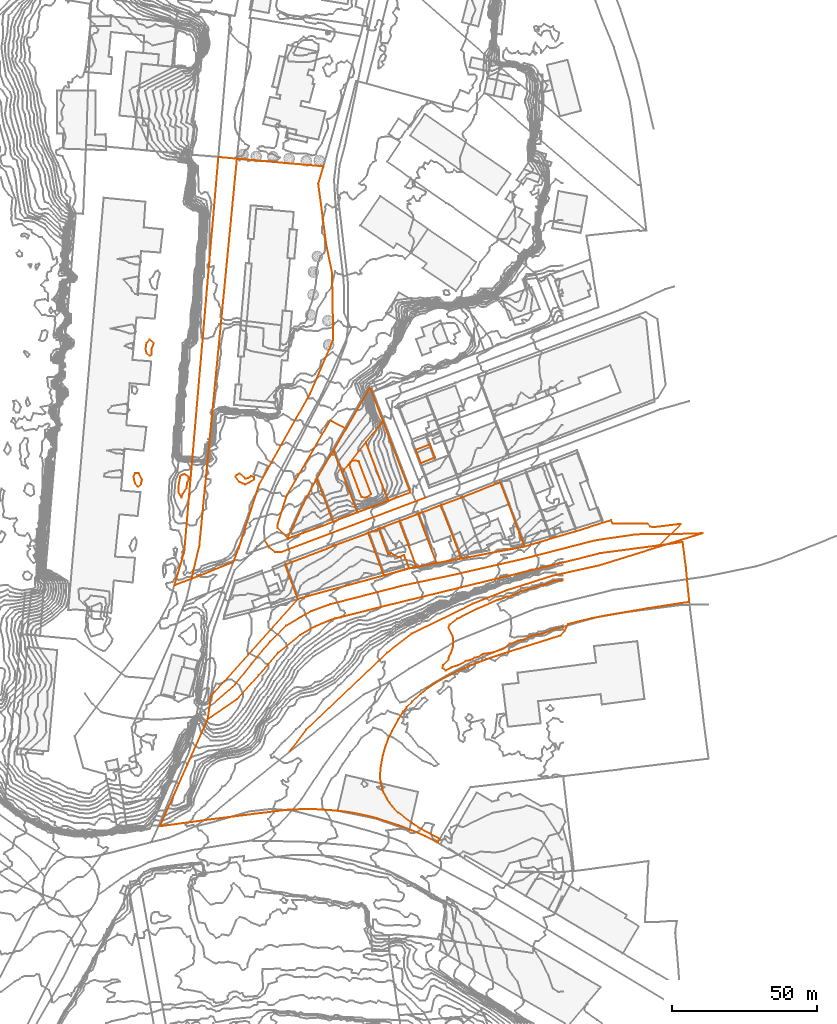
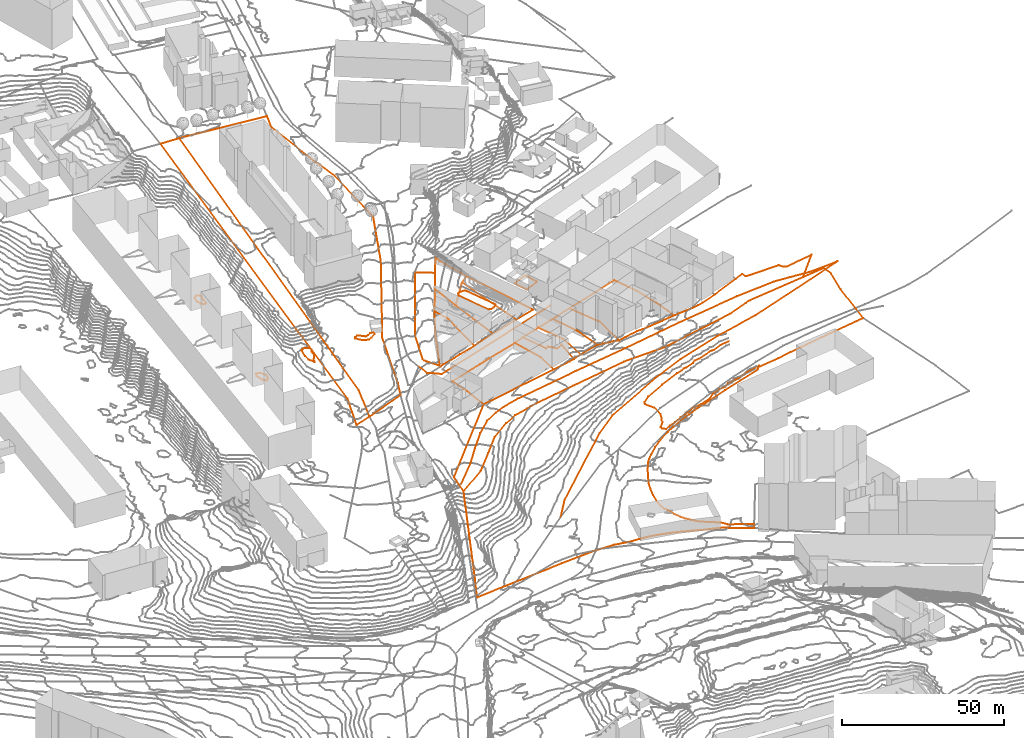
# Not in any storey, part 278 of 419: 26 proxies.
"""IFC2X3 model written with IfcOpenShell, lengths in metres."""

from ifc_helpers import new_model, entity, si_unit, frame, origin_with_axes, place, context, subcontext, project, element, save


model = new_model("IFC2X3")

# Units and contexts
model_context = context("Model", 3, precision=1e-05, world=origin_with_axes())
body_context = subcontext(model_context, "Body", "Model", "MODEL_VIEW")
ifc_project = project(units=[si_unit("AREAUNIT", "SQUARE_METRE"), si_unit("LENGTHUNIT", "METRE")], contexts=[model_context])

# Proxies
proxy_1_placement = place(None, frame((856.5920204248, 606.0976909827, 82.8), z_axis=(0.0, 0.0, 1.0), x_axis=(1.0, 0.0, 0.0)))
element("IfcBuildingElementProxy", 1, at=proxy_1_placement, Name="Route 35", ObjectType="NOTDEFINED", context=body_context, shape_type="GeometricCurveSet", body=[
    entity("IfcGeometricCurveSet", [entity("IfcPolyline", [entity("IfcCartesianPoint", [0.0, 0.0, 0.0]), entity("IfcCartesianPoint", [6.9, 6.0999999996, 1.7]), entity("IfcCartesianPoint", [12.7, 13.3999999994, 0.9]), entity("IfcCartesianPoint", [19.0, 21.0, -0.2]), entity("IfcCartesianPoint", [24.6, 26.3999999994, -0.8]), entity("IfcCartesianPoint", [29.5, 29.3999999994, -1.2]), entity("IfcCartesianPoint", [33.3, 31.5, -1.7]), entity("IfcCartesianPoint", [39.7, 33.7999999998, -2.3]), entity("IfcCartesianPoint", [64.1, 40.0999999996, -4.2]), entity("IfcCartesianPoint", [83.4, 44.2000000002, -5.2]), entity("IfcCartesianPoint", [106.1, 49.3999999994, -6.3]), entity("IfcCartesianPoint", [130.8, 55.7999999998, -8.8]), entity("IfcCartesianPoint", [145.2, 57.8999999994, -9.6]), entity("IfcCartesianPoint", [150.9, 58.0, -10.0]), entity("IfcCartesianPoint", [158.3, 58.0, -10.5]), entity("IfcCartesianPoint", [168.1, 58.2999999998, -10.2])])]),
])
proxy_2_placement = place(None, frame((882.2920204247, 589.0976909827, 71.5), z_axis=(0.0, 0.0, 1.0), x_axis=(1.0, 0.0, 0.0)))
element("IfcBuildingElementProxy", 2, at=proxy_2_placement, Name="Route 169", ObjectType="NOTDEFINED", context=body_context, shape_type="GeometricCurveSet", body=[
    entity("IfcGeometricCurveSet", [entity("IfcPolyline", [entity("IfcCartesianPoint", [0.0, 0.0, 0.0]), entity("IfcCartesianPoint", [5.8, 7.5999999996, -0.2]), entity("IfcCartesianPoint", [33.6000000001, 34.0999999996, -0.6]), entity("IfcCartesianPoint", [42.1000000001, 40.7000000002, -0.9]), entity("IfcCartesianPoint", [63.2000000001, 51.0, -0.6]), entity("IfcCartesianPoint", [75.0, 55.7000000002, -0.3]), entity("IfcCartesianPoint", [90.9, 60.7000000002, -0.3]), entity("IfcCartesianPoint", [106.7000000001, 64.2000000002, 0.0]), entity("IfcCartesianPoint", [142.4, 75.2999999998, 1.1])])]),
])
proxy_3_placement = place(None, frame((873.7920204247, 662.0976909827, 87.0), z_axis=(0.0, 0.0, 1.0), x_axis=(1.0, 0.0, 0.0)))
element("IfcBuildingElementProxy", 3, at=proxy_3_placement, Name="Route 282", ObjectType="NOTDEFINED", context=body_context, shape_type="GeometricCurveSet", body=[
    entity("IfcGeometricCurveSet", [entity("IfcPolyline", [entity("IfcCartesianPoint", [0.0, 0.0, 0.0]), entity("IfcCartesianPoint", [1.5, -2.7000000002, -1.2]), entity("IfcCartesianPoint", [3.5, -4.2000000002, -1.2]), entity("IfcCartesianPoint", [5.7000000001, -4.2000000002, -2.2]), entity("IfcCartesianPoint", [55.4, 14.5999999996, -5.2])])]),
])
proxy_4_placement = place(None, frame((926.6920204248, 671.0176909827, 81.0896820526), z_axis=(0.0, 0.0, 1.0), x_axis=(1.0, 0.0, 0.0)))
element("IfcBuildingElementProxy", 4, at=proxy_4_placement, Name="Cadastre 19", ObjectType="NOTDEFINED", context=body_context, shape_type="GeometricCurveSet", body=[
    entity("IfcGeometricCurveSet", [entity("IfcPolyline", [entity("IfcCartesianPoint", [6.36, -16.9000000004, -1.6779617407]), entity("IfcCartesianPoint", [3.4800000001, -9.3899999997, -0.0629467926]), entity("IfcCartesianPoint", [0.0, 0.0, 0.0]), entity("IfcCartesianPoint", [1.14, 0.46, -0.0689126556]), entity("IfcCartesianPoint", [7.7100000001, 2.9900000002, -0.5121176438]), entity("IfcCartesianPoint", [12.12, -8.1799999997, -0.3472819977]), entity("IfcCartesianPoint", [14.8400000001, -15.3499999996, -4.0007312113]), entity("IfcCartesianPoint", [12.92, -15.6799999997, -3.338548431]), entity("IfcCartesianPoint", [6.36, -16.9000000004, -1.6779617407])])]),
])
proxy_5_placement = place(None, frame((854.1320204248, 600.2776909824, 84.4168177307), z_axis=(0.0, 0.0, 1.0), x_axis=(1.0, 0.0, 0.0)))
element("IfcBuildingElementProxy", 5, at=proxy_5_placement, Name="Cadastre 20", ObjectType="NOTDEFINED", context=body_context, shape_type="GeometricCurveSet", body=[
    entity("IfcGeometricCurveSet", [entity("IfcPolyline", [entity("IfcCartesianPoint", [31.08, 41.5, -3.255061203]), entity("IfcCartesianPoint", [60.74, 49.5800000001, -5.4217720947]), entity("IfcCartesianPoint", [67.63, 51.4800000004, -5.893709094]), entity("IfcCartesianPoint", [69.46, 51.9700000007, -5.9433149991]), entity("IfcCartesianPoint", [70.12, 52.1500000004, -5.7722557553]), entity("IfcCartesianPoint", [71.98, 52.4700000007, -5.4066388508]), entity("IfcCartesianPoint", [78.9199999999, 53.8399999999, -5.0050974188]), entity("IfcCartesianPoint", [85.48, 55.0600000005, -6.665684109]), entity("IfcCartesianPoint", [87.4, 55.3900000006, -7.3278668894]), entity("IfcCartesianPoint", [90.0499999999, 55.8799999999, -7.2246532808]), entity("IfcCartesianPoint", [94.63, 56.71, -7.1273184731]), entity("IfcCartesianPoint", [97.12, 57.2599999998, -7.5501941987]), entity("IfcCartesianPoint", [104.59, 58.5800000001, -7.8696262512]), entity("IfcCartesianPoint", [109.24, 59.5200000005, -8.1018192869]), entity("IfcCartesianPoint", [118.24, 62.25, -9.739118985]), entity("IfcCartesianPoint", [119.88, 62.7300000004, -9.8235665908]), entity("IfcCartesianPoint", [121.9199999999, 63.3300000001, -10.0096198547]), entity("IfcCartesianPoint", [126.9299999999, 64.79, -9.542414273]), entity("IfcCartesianPoint", [136.11, 67.71, -8.606219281]), entity("IfcCartesianPoint", [138.98, 68.5899999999, -8.3070189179]), entity("IfcCartesianPoint", [139.6, 67.4500000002, -8.6946183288]), entity("IfcCartesianPoint", [141.78, 67.4100000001, -8.7082181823]), entity("IfcCartesianPoint", [151.39, 67.4900000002, -8.6810184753]), entity("IfcCartesianPoint", [152.5, 66.46, -9.0180169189]), entity("IfcCartesianPoint", [153.27, 66.1600000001, -9.1140168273]), entity("IfcCartesianPoint", [163.0499999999, 67.3500000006, -8.7286179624]), entity("IfcCartesianPoint", [155.76, 59.96, -10.0884162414]), entity("IfcCartesianPoint", [135.2, 57.25, -10.0394200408]), entity("IfcCartesianPoint", [133.3099999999, 56.7200000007, -10.0448191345]), entity("IfcCartesianPoint", [127.25, 55.21, -10.9395182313]), entity("IfcCartesianPoint", [99.6899999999, 48.4800000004, -9.9919554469]), entity("IfcCartesianPoint", [82.8099999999, 44.3600000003, -7.0012194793]), entity("IfcCartesianPoint", [61.85, 39.2400000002, -5.567098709]), entity("IfcCartesianPoint", [46.2999999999, 35.3500000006, -4.514464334]), entity("IfcCartesianPoint", [42.35, 34.2400000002, -4.4504679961]), entity("IfcCartesianPoint", [36.95, 32.0300000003, -3.7144646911]), entity("IfcCartesianPoint", [31.91, 29.1000000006, -3.1966184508]), entity("IfcCartesianPoint", [24.28, 22.9199999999, -2.0338149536]), entity("IfcCartesianPoint", [17.62, 15.2700000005, -1.0654986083]), entity("IfcCartesianPoint", [10.12, 6.9900000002, -0.1461534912]), entity("IfcCartesianPoint", [0.0, 0.0, 0.0]), entity("IfcCartesianPoint", [1.22, 8.0700000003, -0.0839378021]), entity("IfcCartesianPoint", [1.23, 8.0899999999, -0.0690118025]), entity("IfcCartesianPoint", [31.0599999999, 41.4700000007, -3.2622171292]), entity("IfcCartesianPoint", [31.08, 41.5, -3.255061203])])]),
])
proxy_6_placement = place(None, frame((934.4020204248, 674.0076909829, 80.5775644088), z_axis=(0.0, 0.0, 1.0), x_axis=(1.0, 0.0, 0.0)))
element("IfcBuildingElementProxy", 6, at=proxy_6_placement, Name="Cadastre 21", ObjectType="NOTDEFINED", context=body_context, shape_type="GeometricCurveSet", body=[
    entity("IfcGeometricCurveSet", [entity("IfcPolyline", [entity("IfcCartesianPoint", [7.13, -18.3399999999, -3.4886135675]), entity("IfcCartesianPoint", [4.4099999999, -11.1699999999, 0.1648356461]), entity("IfcCartesianPoint", [0.0, 0.0, 0.0]), entity("IfcCartesianPoint", [6.98, 2.6200000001, -0.4642618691]), entity("IfcCartesianPoint", [20.5699999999, 7.9299999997, -1.3784505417]), entity("IfcCartesianPoint", [23.7799999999, -0.5, -1.4028633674]), entity("IfcCartesianPoint", [26.6, -7.9500000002, -2.5429962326]), entity("IfcCartesianPoint", [28.22, -12.2800000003, -3.3749533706]), entity("IfcCartesianPoint", [28.97, -14.21, -4.2625659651]), entity("IfcCartesianPoint", [24.3199999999, -15.1500000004, -4.0303729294]), entity("IfcCartesianPoint", [16.85, -16.4700000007, -3.7109408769]), entity("IfcCartesianPoint", [14.36, -17.0200000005, -3.2880651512]), entity("IfcCartesianPoint", [9.7799999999, -17.8500000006, -3.3853999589]), entity("IfcCartesianPoint", [7.13, -18.3399999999, -3.4886135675])])]),
])
proxy_7_placement = place(None, frame((891.7320204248, 683.3076909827, 88.7156272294), z_axis=(0.0, 0.0, 1.0), x_axis=(1.0, 0.0, 0.0)))
element("IfcBuildingElementProxy", 7, at=proxy_7_placement, Name="Cadastre 32", ObjectType="NOTDEFINED", context=body_context, shape_type="GeometricCurveSet", body=[
    entity("IfcGeometricCurveSet", [entity("IfcPolyline", [entity("IfcCartesianPoint", [5.78, 9.6299999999, 0.5222743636]), entity("IfcCartesianPoint", [8.71, 2.0999999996, -2.0883052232]), entity("IfcCartesianPoint", [14.08, -11.7199999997, -6.2236720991]), entity("IfcCartesianPoint", [8.77, -13.71, -6.0148249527]), entity("IfcCartesianPoint", [7.64, -14.0899999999, -5.9381997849]), entity("IfcCartesianPoint", [5.66, -15.0099999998, -5.7464299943]), entity("IfcCartesianPoint", [1.9400000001, -5.1299999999, -0.4494564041]), entity("IfcCartesianPoint", [0.0, 0.0, 0.0]), entity("IfcCartesianPoint", [4.53, 7.6299999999, -0.0169090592]), entity("IfcCartesianPoint", [5.78, 9.6299999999, 0.5222743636])])]),
])
proxy_8_placement = place(None, frame((897.5120204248, 692.9376909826, 89.237901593), z_axis=(0.0, 0.0, 1.0), x_axis=(1.0, 0.0, 0.0)))
element("IfcBuildingElementProxy", 8, at=proxy_8_placement, Name="Cadastre 33", ObjectType="NOTDEFINED", context=body_context, shape_type="GeometricCurveSet", body=[
    entity("IfcGeometricCurveSet", [entity("IfcPolyline", [entity("IfcCartesianPoint", [13.23, 20.0499999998, -6.1742382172]), entity("IfcCartesianPoint", [17.0399999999, 10.1299999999, -7.2015495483]), entity("IfcCartesianPoint", [11.14, 2.8399999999, -3.0760072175]), entity("IfcCartesianPoint", [2.9299999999, -7.5300000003, -2.6105795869]), entity("IfcCartesianPoint", [0.0, 0.0, 0.0]), entity("IfcCartesianPoint", [4.2999999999, 7.4199999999, 0.176577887]), entity("IfcCartesianPoint", [12.3199999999, 21.2599999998, -5.1970233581]), entity("IfcCartesianPoint", [12.72, 21.1699999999, -5.5918273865]), entity("IfcCartesianPoint", [12.8099999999, 20.8899999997, -5.6891719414]), entity("IfcCartesianPoint", [13.23, 20.0499999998, -6.1742382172])])]),
])
proxy_9_placement = place(None, frame((900.4420204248, 685.4076909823, 86.6273220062), z_axis=(0.0, 0.0, 1.0), x_axis=(1.0, 0.0, 0.0)))
element("IfcBuildingElementProxy", 9, at=proxy_9_placement, Name="Cadastre 34", ObjectType="NOTDEFINED", context=body_context, shape_type="GeometricCurveSet", body=[
    entity("IfcGeometricCurveSet", [entity("IfcPolyline", [entity("IfcCartesianPoint", [0.0, 0.0, 0.0]), entity("IfcCartesianPoint", [8.2100000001, 10.3700000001, -0.4654276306]), entity("IfcCartesianPoint", [15.9700000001, -9.8199999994, -4.9383921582]), entity("IfcCartesianPoint", [5.37, -13.8199999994, -4.1353668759]), entity("IfcCartesianPoint", [0.0, 0.0, 0.0])])]),
])
proxy_10_placement = place(None, frame((837.6220204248, 563.3876909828, 72.5163026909), z_axis=(0.0, 0.0, 1.0), x_axis=(1.0, 0.0, 0.0)))
element("IfcBuildingElementProxy", 10, at=proxy_10_placement, Name="Cadastre 35", ObjectType="NOTDEFINED", context=body_context, shape_type="GeometricCurveSet", body=[
    entity("IfcGeometricCurveSet", [entity("IfcPolyline", [entity("IfcCartesianPoint", [172.27, 96.8499999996, 1.8120987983]), entity("IfcCartesianPoint", [180.21, 97.9799999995, 1.736097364]), entity("IfcCartesianPoint", [180.6899999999, 94.2000000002, 1.8598952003]), entity("IfcCartesianPoint", [181.3, 89.3099999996, -1.257305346]), entity("IfcCartesianPoint", [182.48, 77.29, -5.3991005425]), entity("IfcCartesianPoint", [179.45, 76.9199999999, -5.3981003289]), entity("IfcCartesianPoint", [168.33, 75.1600000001, -5.407802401]), entity("IfcCartesianPoint", [153.95, 72.71, -5.4443048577]), entity("IfcCartesianPoint", [148.98, 71.7400000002, -5.41360364]), entity("IfcCartesianPoint", [140.65, 69.71, -4.6963022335]), entity("IfcCartesianPoint", [139.5, 67.3499999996, -2.2395045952]), entity("IfcCartesianPoint", [138.1, 65.7800000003, -2.369304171]), entity("IfcCartesianPoint", [124.01, 61.3300000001, -2.3799039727]), entity("IfcCartesianPoint", [115.92, 58.7400000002, -2.6464989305]), entity("IfcCartesianPoint", [111.85, 57.2999999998, -2.4993019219]), entity("IfcCartesianPoint", [107.8199999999, 55.7199999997, -2.5268760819]), entity("IfcCartesianPoint", [103.87, 54.0300000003, -2.5241243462]), entity("IfcCartesianPoint", [100.13, 52.2599999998, -2.5502042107]), entity("IfcCartesianPoint", [97.03, 50.6499999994, -2.5543116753]), entity("IfcCartesianPoint", [94.79, 49.3099999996, -2.6350018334]), entity("IfcCartesianPoint", [92.34, 47.6200000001, -2.6360716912]), entity("IfcCartesianPoint", [90.04, 45.7999999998, -2.6253007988]), entity("IfcCartesianPoint", [87.0, 43.04, -2.6163191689]), entity("IfcCartesianPoint", [85.09, 41.0499999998, -2.5455012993]), entity("IfcCartesianPoint", [83.86, 39.46, -2.5053115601]), entity("IfcCartesianPoint", [82.17, 36.7800000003, -2.4870825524]), entity("IfcCartesianPoint", [80.0, 32.8600000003, -2.2737427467]), entity("IfcCartesianPoint", [78.76, 30.21, -2.7854409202]), entity("IfcCartesianPoint", [77.63, 27.2000000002, -2.8966392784]), entity("IfcCartesianPoint", [76.8, 24.0800000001, -2.9080024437]), entity("IfcCartesianPoint", [76.12, 20.2699999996, -2.9062323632]), entity("IfcCartesianPoint", [75.91, 17.4799999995, -2.916904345]), entity("IfcCartesianPoint", [76.05, 15.6799999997, -2.7580110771]), entity("IfcCartesianPoint", [76.1899999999, 15.04, -2.5823995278]), entity("IfcCartesianPoint", [76.65, 13.0700000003, -2.5536930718]), entity("IfcCartesianPoint", [77.16, 11.7000000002, -2.6786469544]), entity("IfcCartesianPoint", [78.26, 9.5499999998, -2.874301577]), entity("IfcCartesianPoint", [79.17, 8.1100000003, -2.8973024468]), entity("IfcCartesianPoint", [80.21, 6.7599999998, -2.9377031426]), entity("IfcCartesianPoint", [82.08, 4.79, -3.0538612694]), entity("IfcCartesianPoint", [86.95, 1.04, -2.8390723]), entity("IfcCartesianPoint", [87.45, 0.7199999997, -2.8160871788]), entity("IfcCartesianPoint", [89.27, -0.4699999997, -3.4408634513]), entity("IfcCartesianPoint", [96.45, -4.3200000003, -3.5215471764]), entity("IfcCartesianPoint", [95.66, -5.6399999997, -3.9422657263]), entity("IfcCartesianPoint", [91.39, -3.3799999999, -3.8965173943]), entity("IfcCartesianPoint", [86.97, -1.4100000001, -3.2647032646]), entity("IfcCartesianPoint", [82.12, 0.3999999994, -3.3904874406]), entity("IfcCartesianPoint", [74.97, 2.7199999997, -3.0724026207]), entity("IfcCartesianPoint", [72.34, 3.4399999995, -2.9191760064]), entity("IfcCartesianPoint", [67.89, 4.3999999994, -2.7174870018]), entity("IfcCartesianPoint", [65.01, 4.9100000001, -2.6375051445]), entity("IfcCartesianPoint", [62.23, 5.2599999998, -2.5419035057]), entity("IfcCartesianPoint", [57.37, 5.6699999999, -2.6427019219]), entity("IfcCartesianPoint", [52.51, 5.9500000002, -2.1299032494]), entity("IfcCartesianPoint", [44.7, 5.7999999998, -1.7854698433]), entity("IfcCartesianPoint", [32.92, 4.3300000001, -1.252064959]), entity("IfcCartesianPoint", [15.35, 2.1100000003, -0.6742408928]), entity("IfcCartesianPoint", [0.0, 0.0, 0.0]), entity("IfcCartesianPoint", [2.41, 5.4399999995, 2.880453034]), entity("IfcCartesianPoint", [16.51, 36.8899999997, 11.9005150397]), entity("IfcCartesianPoint", [26.63, 43.8799999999, 11.7543615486]), entity("IfcCartesianPoint", [34.13, 52.1600000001, 10.8350164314]), entity("IfcCartesianPoint", [40.79, 59.8099999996, 9.8667000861]), entity("IfcCartesianPoint", [48.42, 65.9900000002, 8.703896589]), entity("IfcCartesianPoint", [53.46, 68.9199999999, 8.1860503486]), entity("IfcCartesianPoint", [58.86, 71.1299999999, 7.4500470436]), entity("IfcCartesianPoint", [62.8099999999, 72.2400000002, 7.3860507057]), entity("IfcCartesianPoint", [78.36, 76.1299999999, 6.3334163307]), entity("IfcCartesianPoint", [99.3199999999, 81.25, 4.8992955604]), entity("IfcCartesianPoint", [116.2, 85.3700000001, 1.9085595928]), entity("IfcCartesianPoint", [143.76, 92.0999999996, 0.9609968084]), entity("IfcCartesianPoint", [149.8199999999, 93.6100000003, 1.8556959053]), entity("IfcCartesianPoint", [151.71, 94.1399999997, 1.8610949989]), entity("IfcCartesianPoint", [172.27, 96.8499999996, 1.8120987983])])]),
])
proxy_11_placement = place(None, frame((920.2020204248, 668.6376909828, 81.4765937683), z_axis=(0.0, 0.0, 1.0), x_axis=(1.0, 0.0, 0.0)))
element("IfcBuildingElementProxy", 11, at=proxy_11_placement, Name="Cadastre 36", ObjectType="NOTDEFINED", context=body_context, shape_type="GeometricCurveSet", body=[
    entity("IfcGeometricCurveSet", [entity("IfcPolyline", [entity("IfcCartesianPoint", [5.91, -15.8899999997, -2.4664148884]), entity("IfcCartesianPoint", [3.52, -9.4400000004, 0.3140689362]), entity("IfcCartesianPoint", [3.37, -9.0800000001, 0.3144093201]), entity("IfcCartesianPoint", [0.0, 0.0, 0.0]), entity("IfcCartesianPoint", [6.49, 2.3799999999, -0.3869117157]), entity("IfcCartesianPoint", [9.9700000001, -7.0099999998, -0.4498585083]), entity("IfcCartesianPoint", [12.85, -14.5200000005, -2.0648734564]), entity("IfcCartesianPoint", [5.91, -15.8899999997, -2.4664148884])])]),
])
proxy_12_placement = place(None, frame((925.8620204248, 693.1176909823, 81.3497686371), z_axis=(0.0, 0.0, 1.0), x_axis=(1.0, 0.0, 0.0)))
element("IfcBuildingElementProxy", 12, at=proxy_12_placement, Name="Cadastre 38", ObjectType="NOTDEFINED", context=body_context, shape_type="GeometricCurveSet", body=[
    entity("IfcGeometricCurveSet", [entity("IfcPolyline", [entity("IfcCartesianPoint", [1.75, -4.5499999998, -0.0859370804]), entity("IfcCartesianPoint", [0.0, 0.0, 0.0]), entity("IfcCartesianPoint", [4.92, 1.96, 0.1500487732]), entity("IfcCartesianPoint", [6.63, -2.6099999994, -0.0271905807]), entity("IfcCartesianPoint", [1.75, -4.5499999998, -0.0859370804])])]),
])
proxy_13_placement = place(None, frame((913.1120204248, 665.9076909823, 82.0206164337), z_axis=(0.0, 0.0, 1.0), x_axis=(1.0, 0.0, 0.0)))
element("IfcBuildingElementProxy", 13, at=proxy_13_placement, Name="Cadastre 40", ObjectType="NOTDEFINED", context=body_context, shape_type="GeometricCurveSet", body=[
    entity("IfcGeometricCurveSet", [entity("IfcPolyline", [entity("IfcCartesianPoint", [0.0, 0.0, 0.0]), entity("IfcCartesianPoint", [7.09, 2.7300000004, -0.5440226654]), entity("IfcCartesianPoint", [10.46, -6.3499999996, -0.2296133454]), entity("IfcCartesianPoint", [10.61, -6.71, -0.2299537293]), entity("IfcCartesianPoint", [13.0, -13.1599999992, -3.0104375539]), entity("IfcCartesianPoint", [11.14, -13.4799999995, -3.3760544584]), entity("IfcCartesianPoint", [10.48, -13.6599999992, -3.5471137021]), entity("IfcCartesianPoint", [8.75, -9.0099999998, -0.3167151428]), entity("IfcCartesianPoint", [6.6, -9.8099999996, -0.572216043]), entity("IfcCartesianPoint", [4.23, -8.4299999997, 0.0984812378]), entity("IfcCartesianPoint", [3.24, -8.79, 0.0228233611]), entity("IfcCartesianPoint", [0.0, 0.0, 0.0])])]),
])
proxy_14_placement = place(None, frame((909.4820204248, 664.4676909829, 82.0551945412), z_axis=(0.0, 0.0, 1.0), x_axis=(1.0, 0.0, 0.0)))
element("IfcBuildingElementProxy", 14, at=proxy_14_placement, Name="Cadastre 41", ObjectType="NOTDEFINED", context=body_context, shape_type="GeometricCurveSet", body=[
    entity("IfcGeometricCurveSet", [entity("IfcPolyline", [entity("IfcCartesianPoint", [3.63, -9.8100000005, -0.8072419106]), entity("IfcCartesianPoint", [0.0, 0.0, 0.0]), entity("IfcCartesianPoint", [3.34, 1.3300000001, -0.043233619]), entity("IfcCartesianPoint", [3.63, 1.4399999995, -0.0345781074]), entity("IfcCartesianPoint", [6.87, -7.3500000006, -0.0117547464]), entity("IfcCartesianPoint", [7.86, -6.9900000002, 0.0639031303]), entity("IfcCartesianPoint", [10.23, -8.3700000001, -0.6067941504]), entity("IfcCartesianPoint", [12.38, -7.5700000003, -0.3512932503]), entity("IfcCartesianPoint", [14.11, -12.2199999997, -3.5816918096]), entity("IfcCartesianPoint", [12.28, -12.71, -3.5320859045]), entity("IfcCartesianPoint", [5.39, -14.6100000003, -3.0601489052]), entity("IfcCartesianPoint", [3.63, -9.8100000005, -0.8072419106])])]),
])
proxy_15_placement = place(None, frame((908.6520204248, 695.7776909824, 86.1618943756), z_axis=(0.0, 0.0, 1.0), x_axis=(1.0, 0.0, 0.0)))
element("IfcBuildingElementProxy", 15, at=proxy_15_placement, Name="Cadastre 42", ObjectType="NOTDEFINED", context=body_context, shape_type="GeometricCurveSet", body=[
    entity("IfcGeometricCurveSet", [entity("IfcPolyline", [entity("IfcCartesianPoint", [5.8999999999, 7.29, -4.1255423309]), entity("IfcCartesianPoint", [15.38, -17.3099999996, -5.1155787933]), entity("IfcCartesianPoint", [7.76, -20.1899999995, -4.4729645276]), entity("IfcCartesianPoint", [0.0, 0.0, 0.0]), entity("IfcCartesianPoint", [5.8999999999, 7.29, -4.1255423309])])]),
])
proxy_16_placement = place(None, frame((848.5120204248, 648.6876909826, 85.2001408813), z_axis=(0.0, 0.0, 1.0), x_axis=(1.0, 0.0, 0.0)))
element("IfcBuildingElementProxy", 16, at=proxy_16_placement, Name="Cadastre 44", ObjectType="NOTDEFINED", context=body_context, shape_type="GeometricCurveSet", body=[
    entity("IfcGeometricCurveSet", [entity("IfcPolyline", [entity("IfcCartesianPoint", [15.7, 144.7599999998, 11.7770893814]), entity("IfcCartesianPoint", [45.49, 142.1399999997, 11.2486352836]), entity("IfcCartesianPoint", [43.74, 136.2800000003, 11.1409198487]), entity("IfcCartesianPoint", [46.47, 115.3300000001, 10.4295399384]), entity("IfcCartesianPoint", [48.49, 105.5300000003, 9.8577703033]), entity("IfcCartesianPoint", [48.9, 82.4500000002, 8.2762669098]), entity("IfcCartesianPoint", [40.8199999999, 63.7300000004, 5.9670062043]), entity("IfcCartesianPoint", [23.3099999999, 32.4699999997, 1.9323752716]), entity("IfcCartesianPoint", [16.39, 10.8399999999, 0.2666331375]), entity("IfcCartesianPoint", [14.4299999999, 5.7599999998, -0.4504412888]), entity("IfcCartesianPoint", [0.0, 0.0, 0.0]), entity("IfcCartesianPoint", [2.74, 11.3899999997, 2.1422587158]), entity("IfcCartesianPoint", [15.7, 144.7599999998, 11.7770893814])])]),
])
proxy_17_placement = place(None, frame((878.1420204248, 667.1376909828, 85.3716190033), z_axis=(0.0, 0.0, 1.0), x_axis=(1.0, 0.0, 0.0)))
element("IfcBuildingElementProxy", 17, at=proxy_17_placement, Name="Cadastre 47", ObjectType="NOTDEFINED", context=body_context, shape_type="GeometricCurveSet", body=[
    entity("IfcGeometricCurveSet", [entity("IfcPolyline", [entity("IfcCartesianPoint", [23.6699999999, 33.2199999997, 4.0428604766]), entity("IfcCartesianPoint", [19.37, 25.7999999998, 3.8662825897]), entity("IfcCartesianPoint", [18.12, 23.7999999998, 3.3270991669]), entity("IfcCartesianPoint", [13.59, 16.1699999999, 3.3440082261]), entity("IfcCartesianPoint", [9.6799999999, 8.9199999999, 0.4651787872]), entity("IfcCartesianPoint", [4.4299999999, -2.5, -0.6171766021]), entity("IfcCartesianPoint", [3.52, -4.3500000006, -1.1499881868]), entity("IfcCartesianPoint", [0.1, -0.9900000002, -0.145495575]), entity("IfcCartesianPoint", [0.0, 0.0, 0.0]), entity("IfcCartesianPoint", [3.2899999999, 10.4900000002, 1.5194986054]), entity("IfcCartesianPoint", [12.2999999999, 25.8999999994, 3.0173617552]), entity("IfcCartesianPoint", [18.1799999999, 36.1200000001, 4.3116798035]), entity("IfcCartesianPoint", [23.6699999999, 33.2199999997, 4.0428604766])])]),
])
proxy_18_placement = place(None, frame((881.6620204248, 662.7876909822, 84.2216308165), z_axis=(0.0, 0.0, 1.0), x_axis=(1.0, 0.0, 0.0)))
element("IfcBuildingElementProxy", 18, at=proxy_18_placement, Name="Cadastre 48", ObjectType="NOTDEFINED", context=body_context, shape_type="GeometricCurveSet", body=[
    entity("IfcGeometricCurveSet", [entity("IfcPolyline", [entity("IfcCartesianPoint", [0.0, 0.0, 0.0]), entity("IfcCartesianPoint", [0.9099999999, 1.8500000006, 0.5328115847]), entity("IfcCartesianPoint", [6.1599999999, 13.2700000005, 1.6151669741]), entity("IfcCartesianPoint", [10.0699999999, 20.5200000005, 4.4939964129]), entity("IfcCartesianPoint", [12.01, 15.3900000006, 4.0445400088]), entity("IfcCartesianPoint", [15.73, 5.5100000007, -1.2524335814]), entity("IfcCartesianPoint", [9.11, 3.0500000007, -0.7043352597]), entity("IfcCartesianPoint", [6.24, 1.9900000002, -0.5582425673]), entity("IfcCartesianPoint", [1.6, 0.3200000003, -0.1669140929]), entity("IfcCartesianPoint", [0.1, -0.3699999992, -0.1669762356]), entity("IfcCartesianPoint", [0.0, 0.0, 0.0])])]),
])
proxy_19_placement = place(None, frame((880.8020204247, 653.5676909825, 84.180515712), z_axis=(0.0, 0.0, 1.0), x_axis=(1.0, 0.0, 0.0)))
element("IfcBuildingElementProxy", 19, at=proxy_19_placement, Name="Cadastre 49", ObjectType="NOTDEFINED", context=body_context, shape_type="GeometricCurveSet", body=[
    entity("IfcGeometricCurveSet", [entity("IfcPolyline", [entity("IfcCartesianPoint", [4.39, -11.8199999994, -3.0259151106]), entity("IfcCartesianPoint", [2.0700000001, -5.5599999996, -1.0181092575]), entity("IfcCartesianPoint", [0.0, 0.0, 0.0]), entity("IfcCartesianPoint", [12.78, 4.8200000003, -0.8424063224]), entity("IfcCartesianPoint", [14.55, 5.5099999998, -1.0173967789]), entity("IfcCartesianPoint", [16.92, 6.5499999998, -1.1895235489]), entity("IfcCartesianPoint", [28.6800000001, 10.9000000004, -2.1253211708]), entity("IfcCartesianPoint", [32.3100000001, 1.0899999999, -2.9325630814]), entity("IfcCartesianPoint", [34.0700000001, -3.71, -5.185470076]), entity("IfcCartesianPoint", [4.41, -11.79, -3.0187591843]), entity("IfcCartesianPoint", [4.39, -11.8199999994, -3.0259151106])])]),
])
proxy_20_placement = place(None, frame((842.6520204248, 646.4876909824, 85.447555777), z_axis=(0.0, 0.0, 1.0), x_axis=(1.0, 0.0, 0.0)))
element("IfcBuildingElementProxy", 20, at=proxy_20_placement, Name="Cadastre 55", ObjectType="NOTDEFINED", context=body_context, shape_type="GeometricCurveSet", body=[
    entity("IfcGeometricCurveSet", [entity("IfcPolyline", [entity("IfcCartesianPoint", [15.1599999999, 147.5800000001, 11.2785398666]), entity("IfcCartesianPoint", [21.5599999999, 146.96, 11.5296744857]), entity("IfcCartesianPoint", [8.6, 13.5899999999, 1.8948438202]), entity("IfcCartesianPoint", [5.86, 2.2000000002, -0.2474148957]), entity("IfcCartesianPoint", [0.0, 0.0, 0.0]), entity("IfcCartesianPoint", [3.4099999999, 11.5499999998, 1.6720356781]), entity("IfcCartesianPoint", [15.1599999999, 147.5800000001, 11.2785398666])])]),
])
proxy_21_placement = place(None, frame((832.7269424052, 727.8976909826, 86.0), z_axis=(0.0, 0.0, 1.0), x_axis=(1.0, 0.0, 0.0)))
element("IfcBuildingElementProxy", 21, at=proxy_21_placement, Name="Contour 86.0 m", ObjectType="NOTDEFINED", context=body_context, shape_type="GeometricCurveSet", body=[
    entity("IfcGeometricCurveSet", [entity("IfcPolyline", [entity("IfcCartesianPoint", [1.3650780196, -2.3529402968, 0.0]), entity("IfcCartesianPoint", [2.0850792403, -2.0, 0.0]), entity("IfcCartesianPoint", [2.0739348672, 0.0, 0.0]), entity("IfcCartesianPoint", [2.8108634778, 2.0, 0.0]), entity("IfcCartesianPoint", [1.3650780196, 3.1698048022, 0.0]), entity("IfcCartesianPoint", [0.2944925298, 2.0, 0.0]), entity("IfcCartesianPoint", [0.0, 0.0, 0.0]), entity("IfcCartesianPoint", [0.3650780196, -1.3478289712, 0.0]), entity("IfcCartesianPoint", [1.3650780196, -2.3529402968, 0.0])])]),
])
proxy_22_placement = place(None, frame((863.6634645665, 683.8976909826, 88.0), z_axis=(0.0, 0.0, 1.0), x_axis=(1.0, 0.0, 0.0)))
element("IfcBuildingElementProxy", 22, at=proxy_22_placement, Name="Contour 88.0 m", ObjectType="NOTDEFINED", context=body_context, shape_type="GeometricCurveSet", body=[
    entity("IfcGeometricCurveSet", [entity("IfcPolyline", [entity("IfcCartesianPoint", [4.678603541, -2.0, 0.0]), entity("IfcCartesianPoint", [3.4285558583, -2.6665818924, 0.0]), entity("IfcCartesianPoint", [2.4285558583, -2.3334181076, 0.0]), entity("IfcCartesianPoint", [1.4285558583, -1.8571117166, 0.0]), entity("IfcCartesianPoint", [0.0, 0.0, 0.0]), entity("IfcCartesianPoint", [0.4285558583, 0.60003052, 0.0]), entity("IfcCartesianPoint", [1.4285558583, 1.0909280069, 0.0]), entity("IfcCartesianPoint", [3.4285558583, -0.6667090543, 0.0]), entity("IfcCartesianPoint", [4.4285558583, -0.4999900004, 0.0]), entity("IfcCartesianPoint", [5.4285558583, 0.1333163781, 0.0]), entity("IfcCartesianPoint", [6.4286558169, 0.0, 0.0]), entity("IfcCartesianPoint", [6.4285606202, -1.0, 0.0]), entity("IfcCartesianPoint", [4.678603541, -2.0, 0.0])])]),
])
proxy_23_placement = place(None, frame((828.6038309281, 683.8976909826, 86.0), z_axis=(0.0, 0.0, 1.0), x_axis=(1.0, 0.0, 0.0)))
element("IfcBuildingElementProxy", 23, at=proxy_23_placement, Name="Contour 86.0 m", ObjectType="NOTDEFINED", context=body_context, shape_type="GeometricCurveSet", body=[
    entity("IfcGeometricCurveSet", [entity("IfcPolyline", [entity("IfcCartesianPoint", [1.4881894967, -3.4999983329, 0.0]), entity("IfcCartesianPoint", [2.4881894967, -2.589741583, 0.0]), entity("IfcCartesianPoint", [2.8615212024, -1.0, 0.0]), entity("IfcCartesianPoint", [1.8650028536, 1.0, 0.0]), entity("IfcCartesianPoint", [1.4881894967, 1.2857154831, 0.0]), entity("IfcCartesianPoint", [0.4881894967, 1.3068153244, 0.0]), entity("IfcCartesianPoint", [0.0, 0.0, 0.0]), entity("IfcCartesianPoint", [0.2010604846, -1.0, 0.0]), entity("IfcCartesianPoint", [0.4881894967, -2.2142779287, 0.0]), entity("IfcCartesianPoint", [1.4881894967, -3.4999983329, 0.0])])]),
])
proxy_24_placement = place(None, frame((903.0130756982, 687.8976909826, 88.0), z_axis=(0.0, 0.0, 1.0), x_axis=(1.0, 0.0, 0.0)))
element("IfcBuildingElementProxy", 24, at=proxy_24_placement, Name="Contour 88.0 m", ObjectType="NOTDEFINED", context=body_context, shape_type="GeometricCurveSet", body=[
    entity("IfcGeometricCurveSet", [entity("IfcPolyline", [entity("IfcCartesianPoint", [6.1140265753, -11.0, 0.0]), entity("IfcCartesianPoint", [5.0789447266, -11.2909092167, 0.0]), entity("IfcCartesianPoint", [4.1377590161, -11.0, 0.0]), entity("IfcCartesianPoint", [3.2834842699, -9.0, 0.0]), entity("IfcCartesianPoint", [0.0, 0.0, 0.0]), entity("IfcCartesianPoint", [0.4032740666, 1.0, 0.0]), entity("IfcCartesianPoint", [1.0789447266, 1.5102063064, 0.0]), entity("IfcCartesianPoint", [3.0789447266, 1.4285558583, 0.0]), entity("IfcCartesianPoint", [3.2664387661, 1.0, 0.0]), entity("IfcCartesianPoint", [7.4379180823, -10.0, 0.0]), entity("IfcCartesianPoint", [6.1140265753, -11.0, 0.0])])]),
])
proxy_25_placement = place(None, frame((844.0920192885, 680.8976909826, 90.0), z_axis=(0.0, 0.0, 1.0), x_axis=(1.0, 0.0, 0.0)))
element("IfcBuildingElementProxy", 25, at=proxy_25_placement, Name="Contour 90.0 m", ObjectType="NOTDEFINED", context=body_context, shape_type="GeometricCurveSet", body=[
    entity("IfcGeometricCurveSet", [entity("IfcPolyline", [entity("IfcCartesianPoint", [1.028578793, -4.0, 0.0]), entity("IfcCartesianPoint", [1.0000011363, -4.2500476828, 0.0]), entity("IfcCartesianPoint", [1.1363e-06, -2.2500476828, 0.0]), entity("IfcCartesianPoint", [0.0, 0.0, 0.0]), entity("IfcCartesianPoint", [0.5797114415, 3.0, 0.0]), entity("IfcCartesianPoint", [1.0000011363, 3.6041643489, 0.0]), entity("IfcCartesianPoint", [2.0000011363, 3.8888832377, 0.0]), entity("IfcCartesianPoint", [3.3863651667, 3.0, 0.0]), entity("IfcCartesianPoint", [3.4727296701, 2.0, 0.0]), entity("IfcCartesianPoint", [2.9523898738, 1.0, 0.0]), entity("IfcCartesianPoint", [2.7173978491, -1.0, 0.0]), entity("IfcCartesianPoint", [1.3666661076, -3.0, 0.0]), entity("IfcCartesianPoint", [1.028578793, -4.0, 0.0])])]),
])
proxy_26_placement = place(None, frame((935.0920370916, 617.8976909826, 69.0), z_axis=(0.0, 0.0, 1.0), x_axis=(1.0, 0.0, 0.0)))
element("IfcBuildingElementProxy", 26, at=proxy_26_placement, Name="Contour 69.0 m", ObjectType="NOTDEFINED", context=body_context, shape_type="GeometricCurveSet", body=[
    entity("IfcGeometricCurveSet", [entity("IfcPolyline", [entity("IfcCartesianPoint", [41.4999833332, 30.4365331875, 0.0]), entity("IfcCartesianPoint", [38.208315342, 30.0, 0.0]), entity("IfcCartesianPoint", [34.9999833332, 28.6627898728, 0.0]), entity("IfcCartesianPoint", [33.9999833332, 28.7056086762, 0.0]), entity("IfcCartesianPoint", [28.9999833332, 26.9668854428, 0.0]), entity("IfcCartesianPoint", [26.9999833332, 26.6557395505, 0.0]), entity("IfcCartesianPoint", [25.9999833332, 25.9000005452, 0.0]), entity("IfcCartesianPoint", [22.9999833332, 24.7516769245, 0.0]), entity("IfcCartesianPoint", [21.9999833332, 24.7438034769, 0.0]), entity("IfcCartesianPoint", [20.9999833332, 24.1240337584, 0.0]), entity("IfcCartesianPoint", [18.9999833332, 23.5263147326, 0.0]), entity("IfcCartesianPoint", [11.9999833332, 20.5348822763, 0.0]), entity("IfcCartesianPoint", [4.9310277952, 17.0, 0.0]), entity("IfcCartesianPoint", [2.3846077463, 15.0, 0.0]), entity("IfcCartesianPoint", [1.9999976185, 14.0, 0.0]), entity("IfcCartesianPoint", [3.4999958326, 11.0, 0.0]), entity("IfcCartesianPoint", [3.7143157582, 9.0, 0.0]), entity("IfcCartesianPoint", [3.5, 7.0, 0.0]), entity("IfcCartesianPoint", [2.7999528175, 5.0, 0.0]), entity("IfcCartesianPoint", [2.1428716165, 4.0, 0.0]), entity("IfcCartesianPoint", [1.9999958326, 3.0, 0.0]), entity("IfcCartesianPoint", [0.1428716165, 1.0, 0.0]), entity("IfcCartesianPoint", [0.0, 0.0, 0.0]), entity("IfcCartesianPoint", [0.9999833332, -0.7500238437, 0.0]), entity("IfcCartesianPoint", [2.9999833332, 0.2727146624, 0.0]), entity("IfcCartesianPoint", [5.3571495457, 1.0, 0.0]), entity("IfcCartesianPoint", [7.9999833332, 2.4545475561, 0.0]), entity("IfcCartesianPoint", [9.9999833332, 2.9310369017, 0.0]), entity("IfcCartesianPoint", [10.9999833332, 3.606059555, 0.0]), entity("IfcCartesianPoint", [11.9999833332, 3.7931037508, 0.0]), entity("IfcCartesianPoint", [13.9999833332, 4.9130449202, 0.0]), entity("IfcCartesianPoint", [16.9999833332, 5.3414652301, 0.0]), entity("IfcCartesianPoint", [20.9999833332, 6.6964305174, 0.0]), entity("IfcCartesianPoint", [22.9999833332, 8.4295784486, 0.0]), entity("IfcCartesianPoint", [23.9999833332, 8.5166669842, 0.0]), entity("IfcCartesianPoint", [25.9999833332, 9.5000006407, 0.0]), entity("IfcCartesianPoint", [27.9999833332, 9.7957737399, 0.0]), entity("IfcCartesianPoint", [29.9999833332, 10.9453126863, 0.0]), entity("IfcCartesianPoint", [32.9999833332, 11.6818197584, 0.0]), entity("IfcCartesianPoint", [33.9999833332, 11.6703304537, 0.0]), entity("IfcCartesianPoint", [37.9999833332, 13.3658544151, 0.0]), entity("IfcCartesianPoint", [41.4999833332, 14.0789481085, 0.0])])]),
])

save(model, "model.ifc")
